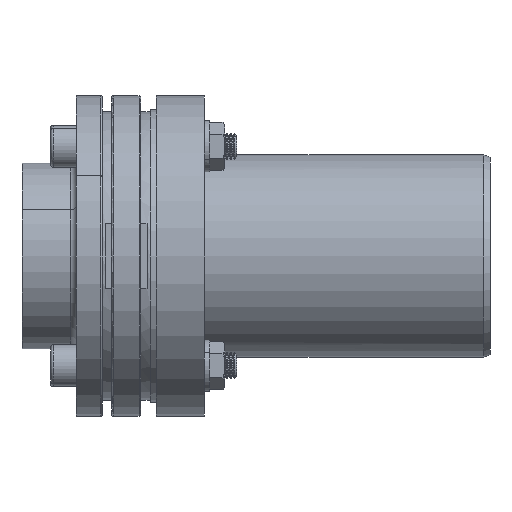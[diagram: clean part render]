
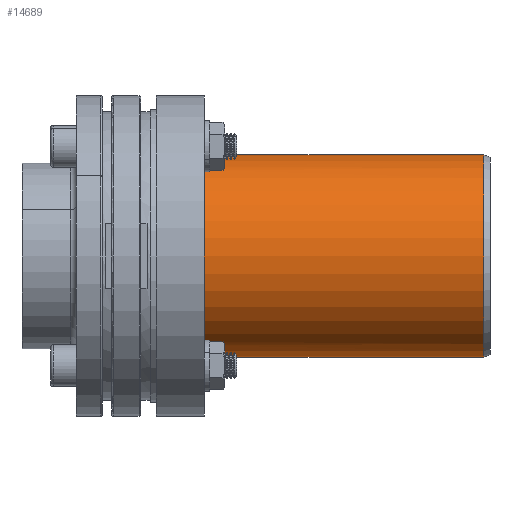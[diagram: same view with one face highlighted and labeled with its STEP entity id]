
A CAD part, left-side view. The second image highlights one B-rep face of the part: STEP entity #14689.
In plain terms, the highlighted cylindrical face has radius 31.6 mm (diameter 63.2 mm), a partial arc.
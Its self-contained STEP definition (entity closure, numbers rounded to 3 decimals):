
#316 = ORIENTED_EDGE ( 'NONE', *, *, #1509, .F. ) ;
#317 = ORIENTED_EDGE ( 'NONE', *, *, #1424, .T. ) ;
#318 = ORIENTED_EDGE ( 'NONE', *, *, #1510, .T. ) ;
#319 = ORIENTED_EDGE ( 'NONE', *, *, #1511, .F. ) ;
#320 = ORIENTED_EDGE ( 'NONE', *, *, #1512, .T. ) ;
#321 = ORIENTED_EDGE ( 'NONE', *, *, #1513, .T. ) ;
#322 = ORIENTED_EDGE ( 'NONE', *, *, #1555, .T. ) ;
#323 = ORIENTED_EDGE ( 'NONE', *, *, #1514, .T. ) ;
#324 = ORIENTED_EDGE ( 'NONE', *, *, #1515, .T. ) ;
#325 = ORIENTED_EDGE ( 'NONE', *, *, #1516, .T. ) ;
#326 = ORIENTED_EDGE ( 'NONE', *, *, #12902, .T. ) ;
#327 = ORIENTED_EDGE ( 'NONE', *, *, #1518, .T. ) ;
#1424 = EDGE_CURVE ( 'NONE', #15343, #15225, #16187, .T. ) ;
#1509 = EDGE_CURVE ( 'NONE', #15343, #15306, #5135, .T. ) ;
#1510 = EDGE_CURVE ( 'NONE', #15225, #15217, #5140, .T. ) ;
#1511 = EDGE_CURVE ( 'NONE', #15306, #15217, #5431, .T. ) ;
#1512 = EDGE_CURVE ( 'NONE', #15273, #15327, #5134, .T. ) ;
#1513 = EDGE_CURVE ( 'NONE', #15327, #15416, #5428, .T. ) ;
#1514 = EDGE_CURVE ( 'NONE', #15373, #15273, #5435, .T. ) ;
#1515 = EDGE_CURVE ( 'NONE', #15323, #15318, #5147, .T. ) ;
#1516 = EDGE_CURVE ( 'NONE', #15318, #15366, #5434, .T. ) ;
#1518 = EDGE_CURVE ( 'NONE', #15379, #15323, #5439, .T. ) ;
#1555 = EDGE_CURVE ( 'NONE', #15416, #15373, #5319, .T. ) ;
#5128 = CARTESIAN_POINT ( 'NONE',  ( 0., 0., 31.6 ) ) ;
#5133 = CARTESIAN_POINT ( 'NONE',  ( -14.813, 88.305, 27.913 ) ) ;
#5134 = LINE ( 'NONE', #5133, #5432 ) ;
#5135 = LINE ( 'NONE', #5128, #5423 ) ;
#5139 = DIRECTION ( 'NONE',  ( 0., -1., 0. ) ) ;
#5140 = LINE ( 'NONE', #5141, #5430 ) ;
#5141 = CARTESIAN_POINT ( 'NONE',  ( 0., 0., -31.6 ) ) ;
#5142 = DIRECTION ( 'NONE',  ( 0., -1., 0. ) ) ;
#5143 = CARTESIAN_POINT ( 'NONE',  ( 0., 2., 0. ) ) ;
#5144 = DIRECTION ( 'NONE',  ( 0., -1., 0. ) ) ;
#5145 = DIRECTION ( 'NONE',  ( 0., 0., -1. ) ) ;
#5146 = DIRECTION ( 'NONE',  ( 0., -1., 0. ) ) ;
#5147 = LINE ( 'NONE', #5148, #5437 ) ;
#5148 = CARTESIAN_POINT ( 'NONE',  ( -16.767, 88.305, -26.785 ) ) ;
#5149 = CARTESIAN_POINT ( 'NONE',  ( 0., 87.505, 0. ) ) ;
#5150 = DIRECTION ( 'NONE',  ( 0., -1., 0. ) ) ;
#5151 = DIRECTION ( 'NONE',  ( -1., 0., 0. ) ) ;
#5152 = CARTESIAN_POINT ( 'NONE',  ( 0., 89.105, 0. ) ) ;
#5153 = DIRECTION ( 'NONE',  ( 0., 1., 0. ) ) ;
#5154 = DIRECTION ( 'NONE',  ( 1., 0., 0. ) ) ;
#5155 = DIRECTION ( 'NONE',  ( 0., -1., 0. ) ) ;
#5156 = CARTESIAN_POINT ( 'NONE',  ( 0., 87.505, 0. ) ) ;
#5157 = DIRECTION ( 'NONE',  ( 0., -1., 0. ) ) ;
#5158 = DIRECTION ( 'NONE',  ( 0., 0., 1. ) ) ;
#5162 = CARTESIAN_POINT ( 'NONE',  ( 0., 89.105, 0. ) ) ;
#5163 = DIRECTION ( 'NONE',  ( 0., 1., 0. ) ) ;
#5164 = DIRECTION ( 'NONE',  ( 0., 0., -1. ) ) ;
#5306 = CARTESIAN_POINT ( 'NONE',  ( -16.767, 88.305, 26.785 ) ) ;
#5319 = LINE ( 'NONE', #5306, #5502 ) ;
#5324 = DIRECTION ( 'NONE',  ( 0., 1., 0. ) ) ;
#5423 = VECTOR ( 'NONE', #5139, 1000. ) ;
#5428 = CIRCLE ( 'NONE', #5436, 31.6 ) ;
#5430 = VECTOR ( 'NONE', #5142, 1000. ) ;
#5431 = CIRCLE ( 'NONE', #5433, 31.6 ) ;
#5432 = VECTOR ( 'NONE', #5146, 1000. ) ;
#5433 = AXIS2_PLACEMENT_3D ( 'NONE', #5143, #5144, #5145 ) ;
#5434 = CIRCLE ( 'NONE', #5441, 31.6 ) ;
#5435 = CIRCLE ( 'NONE', #5438, 31.6 ) ;
#5436 = AXIS2_PLACEMENT_3D ( 'NONE', #5149, #5150, #5151 ) ;
#5437 = VECTOR ( 'NONE', #5155, 1000. ) ;
#5438 = AXIS2_PLACEMENT_3D ( 'NONE', #5152, #5153, #5154 ) ;
#5439 = CIRCLE ( 'NONE', #5445, 31.6 ) ;
#5441 = AXIS2_PLACEMENT_3D ( 'NONE', #5156, #5157, #5158 ) ;
#5445 = AXIS2_PLACEMENT_3D ( 'NONE', #5162, #5163, #5164 ) ;
#5502 = VECTOR ( 'NONE', #5324, 1000. ) ;
#11237 = VECTOR ( 'NONE', #16504, 1000. ) ;
#12902 = EDGE_CURVE ( 'NONE', #15366, #15379, #16495, .T. ) ;
#13394 = CARTESIAN_POINT ( 'NONE',  ( 0., 2., -31.6 ) ) ;
#13402 = CARTESIAN_POINT ( 'NONE',  ( 0., 93.715, -31.6 ) ) ;
#13450 = CARTESIAN_POINT ( 'NONE',  ( -14.813, 89.105, 27.913 ) ) ;
#13483 = CARTESIAN_POINT ( 'NONE',  ( 0., 2., 31.6 ) ) ;
#13495 = CARTESIAN_POINT ( 'NONE',  ( -16.767, 87.505, -26.785 ) ) ;
#13500 = CARTESIAN_POINT ( 'NONE',  ( -16.767, 89.105, -26.785 ) ) ;
#13504 = CARTESIAN_POINT ( 'NONE',  ( -14.813, 87.505, 27.913 ) ) ;
#13520 = CARTESIAN_POINT ( 'NONE',  ( 0., 93.715, 31.6 ) ) ;
#13543 = CARTESIAN_POINT ( 'NONE',  ( -14.813, 87.505, -27.913 ) ) ;
#13550 = CARTESIAN_POINT ( 'NONE',  ( -16.767, 89.105, 26.785 ) ) ;
#13556 = CARTESIAN_POINT ( 'NONE',  ( -14.813, 89.105, -27.913 ) ) ;
#13593 = CARTESIAN_POINT ( 'NONE',  ( -16.767, 87.505, 26.785 ) ) ;
#14158 = CARTESIAN_POINT ( 'NONE',  ( 0., 93.715, 0. ) ) ;
#14159 = DIRECTION ( 'NONE',  ( 0., -1., 0. ) ) ;
#14160 = DIRECTION ( 'NONE',  ( 0., 0., -1. ) ) ;
#14444 = EDGE_LOOP ( 'NONE', ( #324, #325, #326, #327 ) ) ;
#14446 = EDGE_LOOP ( 'NONE', ( #316, #317, #318, #319 ) ) ;
#14448 = EDGE_LOOP ( 'NONE', ( #320, #321, #322, #323 ) ) ;
#14689 = ADVANCED_FACE ( 'NONE', ( #18414, #18406, #18416 ), #18415, .T. ) ;
#15217 = VERTEX_POINT ( 'NONE', #13394 ) ;
#15225 = VERTEX_POINT ( 'NONE', #13402 ) ;
#15273 = VERTEX_POINT ( 'NONE', #13450 ) ;
#15306 = VERTEX_POINT ( 'NONE', #13483 ) ;
#15318 = VERTEX_POINT ( 'NONE', #13495 ) ;
#15323 = VERTEX_POINT ( 'NONE', #13500 ) ;
#15327 = VERTEX_POINT ( 'NONE', #13504 ) ;
#15343 = VERTEX_POINT ( 'NONE', #13520 ) ;
#15366 = VERTEX_POINT ( 'NONE', #13543 ) ;
#15373 = VERTEX_POINT ( 'NONE', #13550 ) ;
#15379 = VERTEX_POINT ( 'NONE', #13556 ) ;
#15416 = VERTEX_POINT ( 'NONE', #13593 ) ;
#16187 = CIRCLE ( 'NONE', #16192, 31.6 ) ;
#16192 = AXIS2_PLACEMENT_3D ( 'NONE', #14158, #14159, #14160 ) ;
#16495 = LINE ( 'NONE', #16496, #11237 ) ;
#16496 = CARTESIAN_POINT ( 'NONE',  ( -14.813, 88.305, -27.913 ) ) ;
#16504 = DIRECTION ( 'NONE',  ( 0., 1., 0. ) ) ;
#17583 = AXIS2_PLACEMENT_3D ( 'NONE', #18417, #18413, #18410 ) ;
#18406 = FACE_BOUND ( 'NONE', #14448, .T. ) ;
#18410 = DIRECTION ( 'NONE',  ( 0., 0., -1. ) ) ;
#18413 = DIRECTION ( 'NONE',  ( 0., -1., 0. ) ) ;
#18414 = FACE_OUTER_BOUND ( 'NONE', #14446, .T. ) ;
#18415 = CYLINDRICAL_SURFACE ( 'NONE', #17583, 31.6 ) ;
#18416 = FACE_BOUND ( 'NONE', #14444, .T. ) ;
#18417 = CARTESIAN_POINT ( 'NONE',  ( 0., 0., 0. ) ) ;
